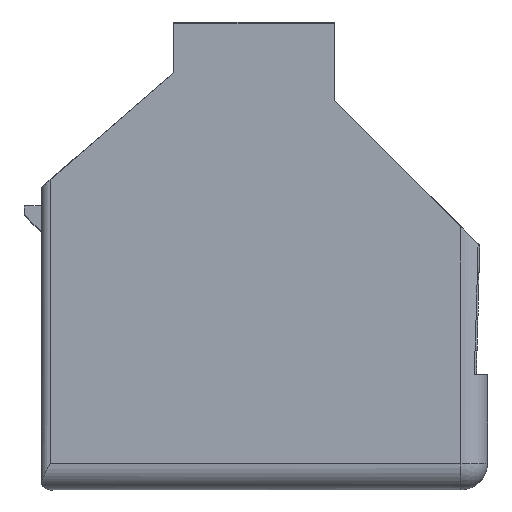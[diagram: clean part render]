
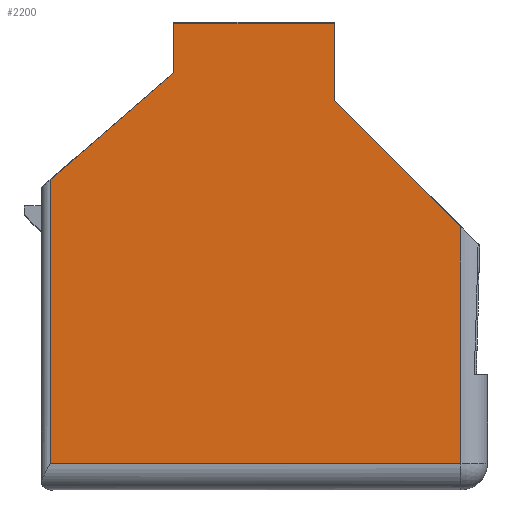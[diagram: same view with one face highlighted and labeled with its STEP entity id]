
A CAD part, left-side view. The second image highlights one B-rep face of the part: STEP entity #2200.
In plain terms, the highlighted planar face has unit normal (-1, 0, -0.018).
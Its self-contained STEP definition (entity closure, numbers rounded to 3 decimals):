
#441=ORIENTED_EDGE('',*,*,#614,.T.);
#442=ORIENTED_EDGE('',*,*,#762,.T.);
#443=ORIENTED_EDGE('',*,*,#668,.T.);
#444=ORIENTED_EDGE('',*,*,#755,.T.);
#445=ORIENTED_EDGE('',*,*,#655,.F.);
#446=ORIENTED_EDGE('',*,*,#754,.T.);
#447=ORIENTED_EDGE('',*,*,#763,.T.);
#448=ORIENTED_EDGE('',*,*,#618,.T.);
#614=EDGE_CURVE('',#843,#842,#992,.T.);
#618=EDGE_CURVE('',#846,#843,#993,.T.);
#655=EDGE_CURVE('',#873,#874,#1019,.T.);
#668=EDGE_CURVE('',#884,#885,#1031,.T.);
#754=EDGE_CURVE('',#873,#933,#1116,.T.);
#755=EDGE_CURVE('',#885,#874,#1117,.T.);
#762=EDGE_CURVE('',#842,#884,#1124,.T.);
#763=EDGE_CURVE('',#933,#846,#1125,.T.);
#842=VERTEX_POINT('',#2933);
#843=VERTEX_POINT('',#2935);
#846=VERTEX_POINT('',#2963);
#873=VERTEX_POINT('',#3038);
#874=VERTEX_POINT('',#3040);
#884=VERTEX_POINT('',#3067);
#885=VERTEX_POINT('',#3068);
#933=VERTEX_POINT('',#3226);
#992=LINE('',#2934,#1190);
#993=LINE('',#2962,#1191);
#1019=LINE('',#3039,#1217);
#1031=LINE('',#3066,#1229);
#1116=LINE('',#3227,#1314);
#1117=LINE('',#3229,#1315);
#1124=LINE('',#3245,#1322);
#1125=LINE('',#3246,#1323);
#1190=VECTOR('',#2435,1000.);
#1191=VECTOR('',#2440,1000.);
#1217=VECTOR('',#2504,1000.);
#1229=VECTOR('',#2526,1000.);
#1314=VECTOR('',#2663,1000.);
#1315=VECTOR('',#2666,1000.);
#1322=VECTOR('',#2691,1000.);
#1323=VECTOR('',#2692,1000.);
#1393=EDGE_LOOP('',(#441,#442,#443,#444,#445,#446,#447,#448));
#1475=FACE_BOUND('',#1393,.T.);
#1550=PLANE('',#2307);
#2200=ADVANCED_FACE('',(#1475),#1550,.T.);
#2307=AXIS2_PLACEMENT_3D('',#3244,#2689,#2690);
#2435=DIRECTION('',(0.,-1.,0.));
#2440=DIRECTION('',(0.017,0.,-1.));
#2504=DIRECTION('',(0.,-1.,0.));
#2526=DIRECTION('',(-0.012,0.707,0.707));
#2663=DIRECTION('',(0.017,0.,-1.));
#2666=DIRECTION('',(-0.017,0.,1.));
#2689=DIRECTION('',(-1.,0.,-0.017));
#2690=DIRECTION('',(-0.017,0.,1.));
#2691=DIRECTION('',(-0.017,0.,1.));
#2692=DIRECTION('',(0.011,0.755,-0.655));
#2933=CARTESIAN_POINT('',(-29.659,-25.165,2.948));
#2934=CARTESIAN_POINT('',(-29.659,-19.815,2.948));
#2935=CARTESIAN_POINT('',(-29.659,21.085,2.948));
#2962=CARTESIAN_POINT('',(-29.625,21.085,1.));
#2963=CARTESIAN_POINT('',(-30.217,21.085,34.936));
#3038=CARTESIAN_POINT('',(-30.525,7.185,52.588));
#3039=CARTESIAN_POINT('',(-30.525,-7.815,52.588));
#3040=CARTESIAN_POINT('',(-30.525,-10.935,52.588));
#3066=CARTESIAN_POINT('',(-30.166,-22.815,31.988));
#3067=CARTESIAN_POINT('',(-30.125,-25.165,29.638));
#3068=CARTESIAN_POINT('',(-30.373,-10.935,43.868));
#3226=CARTESIAN_POINT('',(-30.428,7.185,46.988));
#3227=CARTESIAN_POINT('',(-30.55,7.185,53.988));
#3229=CARTESIAN_POINT('',(-30.428,-10.935,46.988));
#3244=CARTESIAN_POINT('',(-29.66,20.985,2.988));
#3245=CARTESIAN_POINT('',(-30.072,-25.165,26.638));
#3246=CARTESIAN_POINT('',(-30.428,7.185,46.988));
